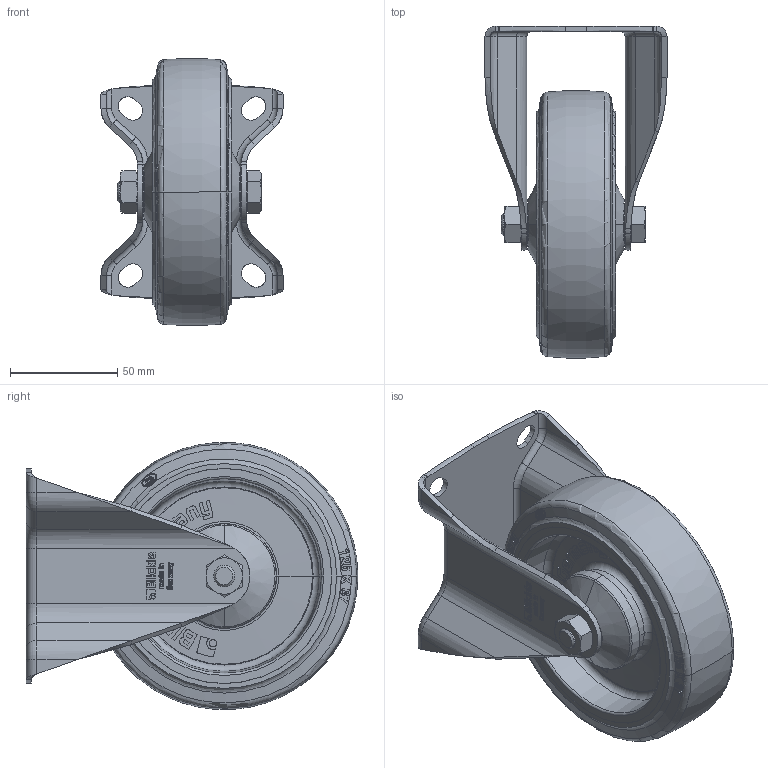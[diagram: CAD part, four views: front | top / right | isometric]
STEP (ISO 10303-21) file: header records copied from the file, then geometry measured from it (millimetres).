
FILE_DESCRIPTION (( 'STEP AP214' ), '1' );
FILE_NAME ('BK-POEV_125K-1-SB_650051-214.step', '2021-12-07T07:03:57', ( '' ), ( '' ), 'SwSTEP 2.0', 'SolidWorks 2018', '' );
FILE_SCHEMA (( 'AUTOMOTIVE_DESIGN' ));
Length unit declared in the file: millimetre
Products named in the file (5): GH-BK_80-125_GH-BK-125x45-01_10x46; POEV_125_10K-SB_G16_3D; BK-POEV_125K-1-SB_650051-214; POEV_125_3D_G16_POEV_125_10K-SB_591917; GH-BK-125x45-01_10x46_G16_3D
Assembly tree (4 placements, depth 3):
  BK-POEV_125K-1-SB_650051-214
    GH-BK_80-125_GH-BK-125x45-01_10x46
      GH-BK-125x45-01_10x46_G16_3D
    POEV_125_3D_G16_POEV_125_10K-SB_591917
      POEV_125_10K-SB_G16_3D
Bounding box: 85 x 154.92 x 124.59 mm (x, y, z)
Volume: 317638 mm3; surface area: 112326.4 mm2
Topology: 2 solids, 6 shells, 3265 faces, 8824 edges, 5783 vertices
Faces by surface type: bspline 1406, plane 1386, cone 247, torus 118, cylinder 108
Entity records: 140555 total; most frequent: CARTESIAN_POINT 51427, ORIENTED_EDGE 17648, DIRECTION 8845, EDGE_CURVE 8824, VERTEX_POINT 5783, B_SPLINE_CURVE_WITH_KNOTS 4103, LINE 3691, VECTOR 3691
